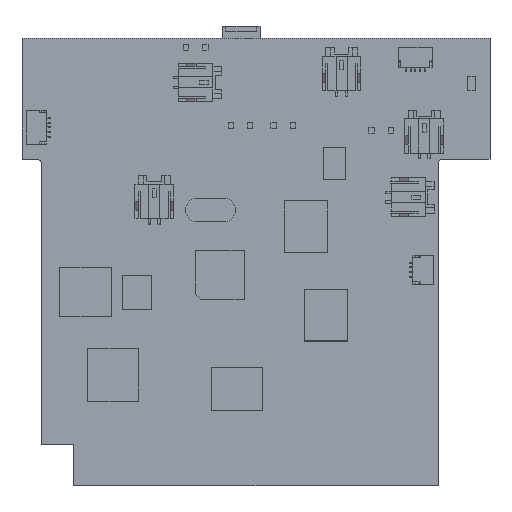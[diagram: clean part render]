
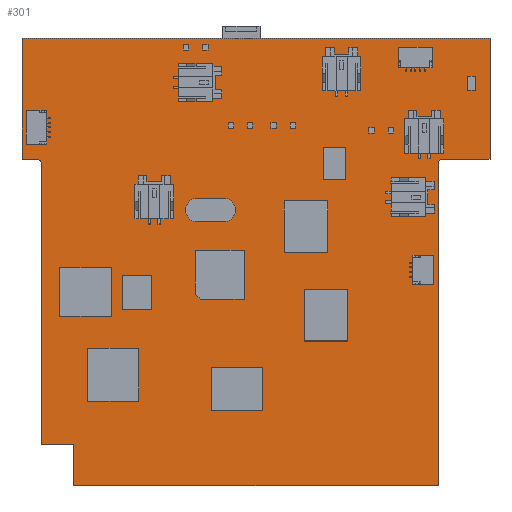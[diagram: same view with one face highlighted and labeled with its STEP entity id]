
A CAD part, top view. The second image highlights one B-rep face of the part: STEP entity #301.
In plain terms, the highlighted planar face has unit normal (0, 0, 1).
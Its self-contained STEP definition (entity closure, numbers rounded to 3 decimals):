
#46=DIRECTION('',(0.,1.,0.));
#47=VECTOR('',#46,66.5);
#48=CARTESIAN_POINT('',(37.65,-46.25,1.6));
#49=LINE('',#48,#47);
#55=CARTESIAN_POINT('',(38.65,20.25,1.6));
#56=DIRECTION('',(0.,0.,-1.));
#57=DIRECTION('',(-1.,0.,0.));
#58=AXIS2_PLACEMENT_3D('',#55,#56,#57);
#64=DIRECTION('',(-1.,0.,0.));
#65=VECTOR('',#64,9.75);
#66=CARTESIAN_POINT('',(48.4,21.25,1.6));
#67=LINE('',#66,#65);
#68=DIRECTION('',(1.,0.,0.));
#69=VECTOR('',#68,75.3);
#70=CARTESIAN_POINT('',(-37.65,-46.25,1.6));
#71=LINE('',#70,#69);
#72=DIRECTION('',(0.,1.,0.));
#73=VECTOR('',#72,8.5);
#74=CARTESIAN_POINT('',(-37.65,-46.25,1.6));
#75=LINE('',#74,#73);
#76=DIRECTION('',(1.,0.,0.));
#77=VECTOR('',#76,6.75);
#78=CARTESIAN_POINT('',(-44.4,-37.75,1.6));
#79=LINE('',#78,#77);
#80=DIRECTION('',(0.,-1.,0.));
#81=VECTOR('',#80,58.);
#82=CARTESIAN_POINT('',(-44.4,20.25,1.6));
#83=LINE('',#82,#81);
#84=DIRECTION('',(1.,0.,0.));
#85=VECTOR('',#84,3.);
#86=CARTESIAN_POINT('',(-48.4,21.25,1.6));
#87=LINE('',#86,#85);
#88=DIRECTION('',(0.,-1.,0.));
#89=VECTOR('',#88,25.);
#90=CARTESIAN_POINT('',(-48.4,46.25,1.6));
#91=LINE('',#90,#89);
#92=DIRECTION('',(-1.,0.,0.));
#93=VECTOR('',#92,96.8);
#94=CARTESIAN_POINT('',(48.4,46.25,1.6));
#95=LINE('',#94,#93);
#96=DIRECTION('',(0.,1.,0.));
#97=VECTOR('',#96,25.);
#98=CARTESIAN_POINT('',(48.4,21.25,1.6));
#99=LINE('',#98,#97);
#125=CARTESIAN_POINT('',(-45.4,20.25,1.6));
#126=DIRECTION('',(0.,0.,-1.));
#127=DIRECTION('',(0.,1.,0.));
#128=AXIS2_PLACEMENT_3D('',#125,#126,#127);
#154=CARTESIAN_POINT('',(48.4,46.25,1.6));
#155=CARTESIAN_POINT('',(-48.4,46.25,1.6));
#156=VERTEX_POINT('',#154);
#157=VERTEX_POINT('',#155);
#162=CARTESIAN_POINT('',(-37.65,-46.25,1.6));
#163=CARTESIAN_POINT('',(-37.65,-37.75,1.6));
#164=VERTEX_POINT('',#162);
#165=VERTEX_POINT('',#163);
#167=CARTESIAN_POINT('',(37.65,-46.25,1.6));
#169=VERTEX_POINT('',#167);
#171=CARTESIAN_POINT('',(48.4,21.25,1.6));
#173=VERTEX_POINT('',#171);
#175=CARTESIAN_POINT('',(-48.4,21.25,1.6));
#177=VERTEX_POINT('',#175);
#179=CARTESIAN_POINT('',(-44.4,-37.75,1.6));
#181=VERTEX_POINT('',#179);
#183=CARTESIAN_POINT('',(-44.4,20.25,1.6));
#185=VERTEX_POINT('',#183);
#187=CARTESIAN_POINT('',(-45.4,21.25,1.6));
#189=VERTEX_POINT('',#187);
#191=CARTESIAN_POINT('',(38.65,21.25,1.6));
#193=VERTEX_POINT('',#191);
#195=CARTESIAN_POINT('',(37.65,20.25,1.6));
#197=VERTEX_POINT('',#195);
#273=CARTESIAN_POINT('',(0.,0.,1.6));
#274=DIRECTION('',(0.,0.,1.));
#275=DIRECTION('',(1.,0.,0.));
#276=AXIS2_PLACEMENT_3D('',#273,#274,#275);
#277=PLANE('',#276);
#278=ORIENTED_EDGE('',*,*,#265,.T.);
#279=ORIENTED_EDGE('',*,*,#254,.F.);
#280=ORIENTED_EDGE('',*,*,#240,.F.);
#282=ORIENTED_EDGE('',*,*,#281,.F.);
#284=ORIENTED_EDGE('',*,*,#283,.T.);
#286=ORIENTED_EDGE('',*,*,#285,.F.);
#288=ORIENTED_EDGE('',*,*,#287,.F.);
#290=ORIENTED_EDGE('',*,*,#289,.F.);
#292=ORIENTED_EDGE('',*,*,#291,.F.);
#294=ORIENTED_EDGE('',*,*,#293,.F.);
#296=ORIENTED_EDGE('',*,*,#295,.F.);
#298=ORIENTED_EDGE('',*,*,#297,.F.);
#299=EDGE_LOOP('',(#278,#279,#280,#282,#284,#286,#288,#290,#292,#294,#296,
#298));
#300=FACE_OUTER_BOUND('',#299,.F.);
#301=ADVANCED_FACE('',(#300),#277,.T.);
#59=CIRCLE('',#58,1.);
#129=CIRCLE('',#128,1.);
#240=EDGE_CURVE('',#169,#197,#49,.T.);
#254=EDGE_CURVE('',#197,#193,#59,.T.);
#265=EDGE_CURVE('',#173,#193,#67,.T.);
#281=EDGE_CURVE('',#164,#169,#71,.T.);
#283=EDGE_CURVE('',#164,#165,#75,.T.);
#285=EDGE_CURVE('',#181,#165,#79,.T.);
#287=EDGE_CURVE('',#185,#181,#83,.T.);
#289=EDGE_CURVE('',#189,#185,#129,.T.);
#291=EDGE_CURVE('',#177,#189,#87,.T.);
#293=EDGE_CURVE('',#157,#177,#91,.T.);
#295=EDGE_CURVE('',#156,#157,#95,.T.);
#297=EDGE_CURVE('',#173,#156,#99,.T.);
